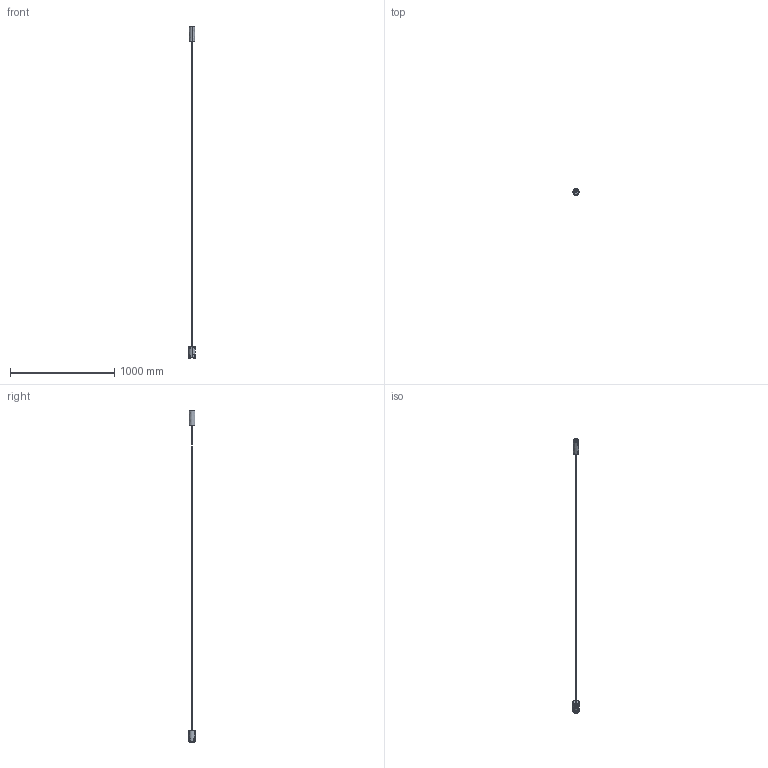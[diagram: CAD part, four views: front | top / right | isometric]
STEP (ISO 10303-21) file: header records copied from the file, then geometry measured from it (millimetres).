
FILE_DESCRIPTION(/* description */ (''),/* implementation_level */ '2;1');
FILE_NAME(/* name */ 'L127__.006',/* time_stamp */ '2025-05-27T12:17:31+02:00',/* author */ (''),/* organization */ (''),/* preprocessor_version */ 'ST-DEVELOPER v16.5',/* originating_system */ '',/* authorisation */ '');
FILE_SCHEMA (('AUTOMOTIVE_DESIGN'));
Length unit declared in the file: millimetre
Products named in the file (10): Document; 3300.0487000.00 (testata di chiusura cilindrica ALL con filetto ester
no)_3307.0487006.00; 3100.0106000.00 (lente semisferica PC)_3100.0106006.00; 3200.0859000.00 (piattello di chiusura ACC sp 1,2)_3201.0859006.00; 3300.0250000.00 (tubo rosone ALL D 55mm sp 2)_3306.0250015.00; 3200.0874000.00 (staffa rosone ACC Ø 50,7mm H 146mm sp 1,2)_3210.
0874000.00 in opera; 3200.0021000.00 (testata rosone ACC D 50,7mm sp 1,2)_3201.0021000.00; 3200.0873000.00 (staffa rosone ACC 50x44x145mm sp 1,2)_3209.0873000.0
0 - in opera; 4504.0004000.00 (passacavo D int. 5,9mm L 10,5mm Steab 5101)_4504.000
4000.00; 5205.0001010.00 (raccordo fresato OTTONE D 12mm sp 3 gambo H 10mm M10
x1 Sacla 13501)_5205.0001010.00
Assembly tree (9 placements, depth 3):
  Document
    3300.0487000.00 (testata di chiusura cilindrica ALL con filetto ester
no)_3307.0487006.00
    3100.0106000.00 (lente semisferica PC)_3100.0106006.00
    3200.0859000.00 (piattello di chiusura ACC sp 1,2)_3201.0859006.00
    3300.0250000.00 (tubo rosone ALL D 55mm sp 2)_3306.0250015.00
    3200.0874000.00 (staffa rosone ACC Ø 50,7mm H 146mm sp 1,2)_3210.
0874000.00 in opera
      3200.0021000.00 (testata rosone ACC D 50,7mm sp 1,2)_3201.0021000.00
      3200.0873000.00 (staffa rosone ACC 50x44x145mm sp 1,2)_3209.0873000.0
0 - in opera
    4504.0004000.00 (passacavo D int. 5,9mm L 10,5mm Steab 5101)_4504.000
4000.00
    5205.0001010.00 (raccordo fresato OTTONE D 12mm sp 3 gambo H 10mm M10
x1 Sacla 13501)_5205.0001010.00
Bounding box: 60 x 60 x 3188.6 mm (x, y, z)
Volume: 216700.1 mm3; surface area: 249496.9 mm2
Topology: 12 solids, 12 shells, 638 faces, 1670 edges, 1059 vertices
Faces by surface type: bspline 392, plane 246
Entity records: 48751 total; most frequent: CARTESIAN_POINT 38666, ORIENTED_EDGE 3324, EDGE_CURVE 1662, VERTEX_POINT 1059, B_SPLINE_CURVE_WITH_KNOTS 946, EDGE_LOOP 693, ADVANCED_FACE 638, FACE_OUTER_BOUND 638
